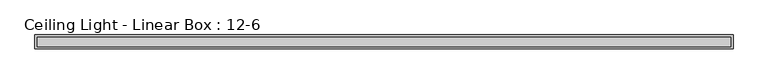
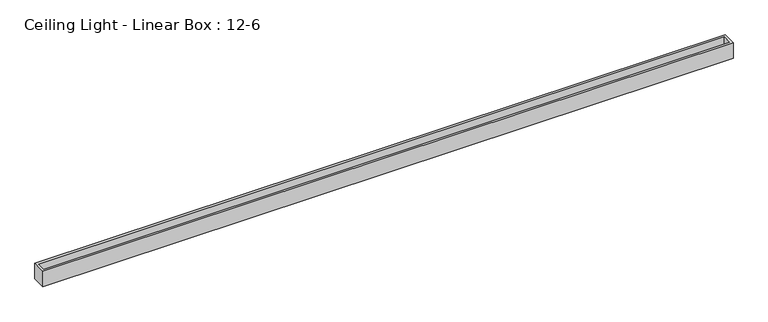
"""IFC4 building model written with IfcOpenShell, lengths in millimetres: light fixture geometry, Ceiling Light - Linear Box : 12-6."""

from ifc_helpers import new_model, si_unit, frame, origin, place, context, project, spatial, polyline, outline, extrude, source, transform, mapped, element, save


def ceiling_light_linear_box_12_6_f89ae417(model_context):
    return source(origin(), model_context, "Body", "SweptSolid", [
        extrude(outline(polyline([(1892.3, 25.4), (1892.3, -25.4), (-1892.3, -25.4), (-1892.3, 25.4), (1892.3, 25.4)])), frame((0.0, 0.0, 2438.4), z_axis=(0.0, 0.0, 1.0), x_axis=(1.0, 0.0, 0.0)), (0.0, 0.0, 1.0), 6.35),
        extrude(outline(polyline([(1905.0, 38.1), (1905.0, -38.1), (-1905.0, -38.1), (-1905.0, 38.1), (1905.0, 38.1)]), holes=[polyline([(1892.3, 25.4), (-1892.3, 25.4), (-1892.3, -25.4), (1892.3, -25.4), (1892.3, 25.4)])]), frame((0.0, 0.0, 2438.4), z_axis=(0.0, 0.0, 1.0), x_axis=(1.0, 0.0, 0.0)), (0.0, 0.0, 1.0), 88.9),
    ])


if __name__ == "__main__":
    model = new_model("IFC4")
    model_context = context("Model", 3, world=origin())
    ifc_project = project(units=[si_unit("LENGTHUNIT", "METRE", prefix="MILLI")], contexts=[model_context])
    site = spatial("IfcSite", under=ifc_project)
    building = spatial("IfcBuilding", under=site)
    placement = place(None, origin())
    ceiling_light_linear_box_12_6_shape = ceiling_light_linear_box_12_6_f89ae417(model_context)
    element("IfcLightFixture", 1, ObjectType="Ceiling Light - Linear Box : 12-6", at=placement, inside=building, context=model_context, shape_type="MappedRepresentation", body=[
        mapped(ceiling_light_linear_box_12_6_shape, transform((0.0, 0.0, 0.0), x_axis=(1.0, 0.0, 0.0), y_axis=(0.0, 1.0, 0.0), z_axis=(0.0, 0.0, 1.0))),
    ])
    save(model, "model.ifc")
